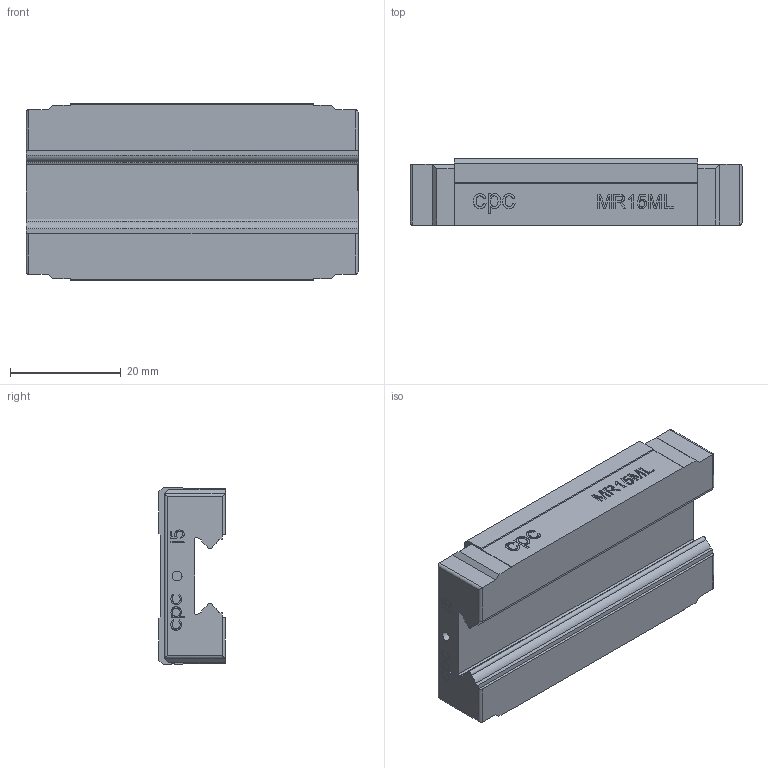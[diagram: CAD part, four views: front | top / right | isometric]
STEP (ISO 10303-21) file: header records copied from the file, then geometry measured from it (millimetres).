
FILE_DESCRIPTION (( 'STEP AP203' ), '1' );
FILE_NAME ('15ML-SS_ZZ-block.STEP', '2009-08-12T01:47:44', ( 'cpc' ), ( '' ), 'SwSTEP 2.0', 'SolidWorks 2007', '' );
FILE_SCHEMA (( 'CONFIG_CONTROL_DESIGN' ));
Length unit declared in the file: millimetre
Products named in the file (1): 15ML-SS_ZZ-block
Bounding box: 60 x 12 x 32 mm (x, y, z)
Volume: 17559.8 mm3; surface area: 7034.2 mm2
Topology: 1 solids, 1 shells, 496 faces, 1328 edges, 870 vertices
Faces by surface type: plane 247, bspline 190, cylinder 43, cone 16
Entity records: 24365 total; most frequent: CARTESIAN_POINT 13205, ORIENTED_EDGE 2640, DIRECTION 1626, EDGE_CURVE 1320, VERTEX_POINT 870, VECTOR 852, LINE 852, EDGE_LOOP 540
